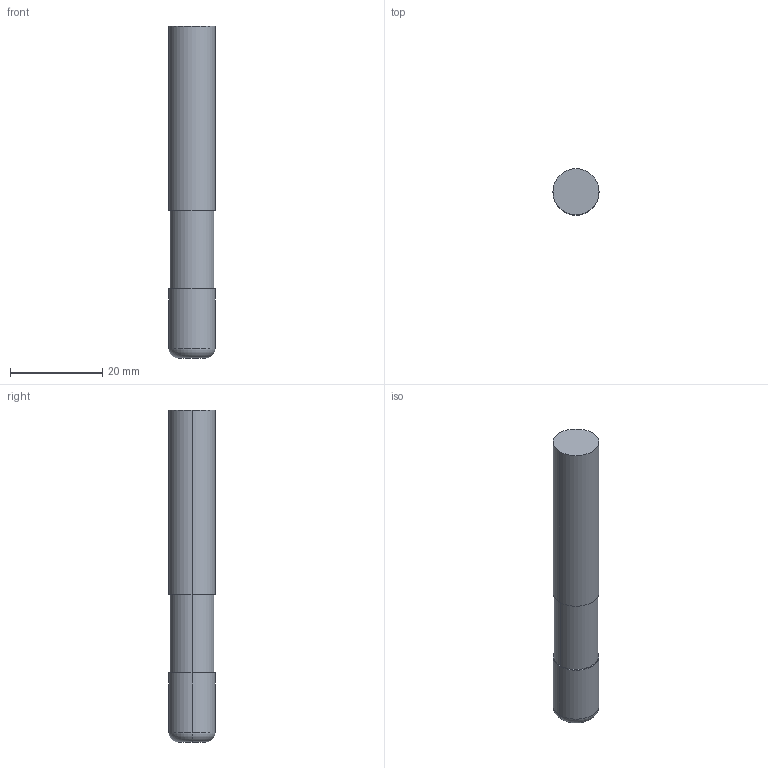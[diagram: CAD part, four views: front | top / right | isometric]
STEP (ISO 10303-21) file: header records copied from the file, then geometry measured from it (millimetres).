
FILE_DESCRIPTION(('STEP AP214'),'1');
FILE_NAME('cctmp_64CBD18B-D268-48DE-8D19-E93DF03E9F05_2020_10_01_07_21_49_0872..stp','2020-10-01T05:21:49',('Meusburger Georg GmbH & Co KG'),('CADClick - www.CADClick.com'),'Spatial InterOp 3D',' ','unknown authorization');
FILE_SCHEMA(('AUTOMOTIVE_DESIGN { 1 0 10303 214 1 1 1 1 }'));
Length unit declared in the file: millimetre
Products named in the file (1): WZF17576_10_2
Bounding box: 10 x 10 x 72 mm (x, y, z)
Volume: 5500.1 mm3; surface area: 2378.9 mm2
Topology: 1 solids, 1 shells, 12 faces, 22 edges, 14 vertices
Faces by surface type: cylinder 6, plane 4, torus 2
Entity records: 426 total; most frequent: DIRECTION 64, CARTESIAN_POINT 49, ORIENTED_EDGE 44, AXIS2_PLACEMENT_3D 29, EDGE_CURVE 22, CIRCLE 16, EDGE_LOOP 14, VERTEX_POINT 14
